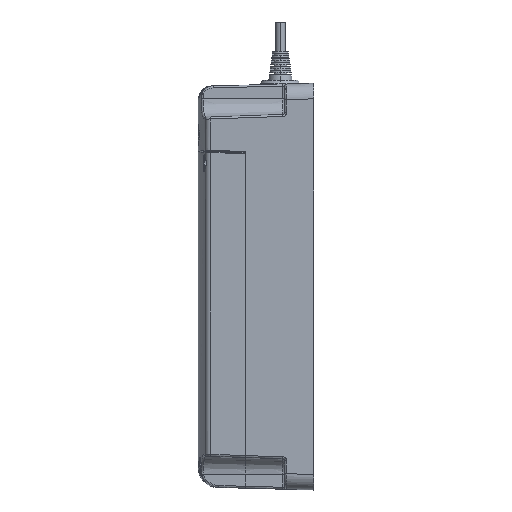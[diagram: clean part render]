
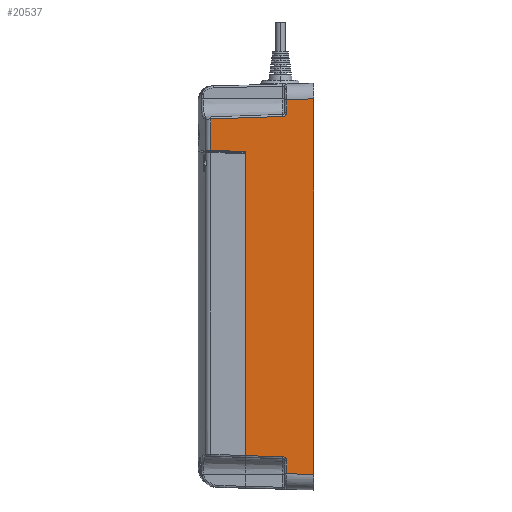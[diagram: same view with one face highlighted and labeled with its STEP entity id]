
A CAD part, left-side view. The second image highlights one B-rep face of the part: STEP entity #20537.
In plain terms, the highlighted planar face has unit normal (-1, 0.026, 0).
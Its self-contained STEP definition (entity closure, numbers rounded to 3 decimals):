
#170 = CARTESIAN_POINT ( 'NONE',  ( -58.005, -0.209, 96.508 ) ) ;
#172 = DIRECTION ( 'NONE',  ( 0.026, 0.999, -0.026 ) ) ;
#446 = CARTESIAN_POINT ( 'NONE',  ( -56.612, 53.016, 86.173 ) ) ;
#482 = DIRECTION ( 'NONE',  ( 0.026, 0.999, -0.035 ) ) ;
#486 = CARTESIAN_POINT ( 'NONE',  ( -57.633, 14.026, 89.466 ) ) ;
#493 = CARTESIAN_POINT ( 'NONE',  ( -57.608, 14.965, -87.502 ) ) ;
#498 = CARTESIAN_POINT ( 'NONE',  ( -57.633, 14.026, 88.326 ) ) ;
#499 = CARTESIAN_POINT ( 'NONE',  ( -57.612, 14.818, 87.507 ) ) ;
#500 = CARTESIAN_POINT ( 'NONE',  ( -57.582, 15.956, 87.467 ) ) ;
#504 = DIRECTION ( 'NONE',  ( -0.026, -0.999, -0.035 ) ) ;
#592 = CARTESIAN_POINT ( 'NONE',  ( -56.611, 53.051, 104.5 ) ) ;
#594 = DIRECTION ( 'NONE',  ( 0., 0., -1. ) ) ;
#686 = CARTESIAN_POINT ( 'NONE',  ( -57.633, 14.026, -96.11 ) ) ;
#702 = DIRECTION ( 'NONE',  ( 0., 0., -1. ) ) ;
#738 = CARTESIAN_POINT ( 'NONE',  ( -58., 0., 104.5 ) ) ;
#752 = DIRECTION ( 'NONE',  ( 0., 0., 1. ) ) ;
#1058 = CARTESIAN_POINT ( 'NONE',  ( -57.582, 15.956, -87.467 ) ) ;
#1089 = CARTESIAN_POINT ( 'NONE',  ( -57.612, 14.818, -87.507 ) ) ;
#1090 = CARTESIAN_POINT ( 'NONE',  ( -57.633, 14.026, -88.326 ) ) ;
#1091 = CARTESIAN_POINT ( 'NONE',  ( -57.633, 14.026, -89.466 ) ) ;
#5385 = AXIS2_PLACEMENT_3D ( 'NONE', #13556, #13562, #13563 ) ;
#5632 = DIRECTION ( 'NONE',  ( 0., 0., -1. ) ) ;
#5633 = CARTESIAN_POINT ( 'NONE',  ( -57.975, 0.939, 68.608 ) ) ;
#5634 = DIRECTION ( 'NONE',  ( -0.026, -0.999, -0.026 ) ) ;
#6015 = CARTESIAN_POINT ( 'NONE',  ( -57.862, 5.256, -96.365 ) ) ;
#6016 = DIRECTION ( 'NONE',  ( -0.026, -0.999, -0.026 ) ) ;
#7959 = CARTESIAN_POINT ( 'NONE',  ( -57.083, 35., -86.802 ) ) ;
#7968 = CARTESIAN_POINT ( 'NONE',  ( -57.633, 14.026, 96.135 ) ) ;
#7969 = CARTESIAN_POINT ( 'NONE',  ( -57.582, 15.956, -87.467 ) ) ;
#8000 = CARTESIAN_POINT ( 'NONE',  ( -56.611, 53.051, 86.172 ) ) ;
#8035 = CARTESIAN_POINT ( 'NONE',  ( -56.611, 53.051, 69.973 ) ) ;
#8150 = CARTESIAN_POINT ( 'NONE',  ( -58., 0., 96.503 ) ) ;
#8178 = CARTESIAN_POINT ( 'NONE',  ( -57.633, 14.026, -96.135 ) ) ;
#8193 = CARTESIAN_POINT ( 'NONE',  ( -57.633, 14.026, 89.466 ) ) ;
#8201 = CARTESIAN_POINT ( 'NONE',  ( -57.582, 15.956, 87.467 ) ) ;
#9912 = VERTEX_POINT ( 'NONE', #20754 ) ;
#9960 = VERTEX_POINT ( 'NONE', #20802 ) ;
#10013 = VERTEX_POINT ( 'NONE', #20855 ) ;
#10710 = EDGE_CURVE ( 'NONE', #10013, #22786, #23818, .T. ) ;
#10719 = EDGE_CURVE ( 'NONE', #22795, #23098, #23895, .T. ) ;
#10721 = EDGE_CURVE ( 'NONE', #22863, #10013, #23925, .T. ) ;
#10873 = EDGE_CURVE ( 'NONE', #23029, #9960, #23876, .T. ) ;
#11021 = EDGE_CURVE ( 'NONE', #23111, #22828, #18321, .T. ) ;
#11025 = EDGE_CURVE ( 'NONE', #22786, #22796, #18888, .T. ) ;
#11040 = EDGE_CURVE ( 'NONE', #22828, #22863, #18318, .T. ) ;
#11058 = EDGE_CURVE ( 'NONE', #9912, #23029, #18730, .T. ) ;
#11111 = EDGE_CURVE ( 'NONE', #22978, #22795, #23787, .T. ) ;
#11147 = EDGE_CURVE ( 'NONE', #23098, #23111, #17004, .T. ) ;
#11191 = EDGE_CURVE ( 'NONE', #9960, #22978, #23713, .T. ) ;
#11222 = EDGE_CURVE ( 'NONE', #22796, #9912, #16977, .T. ) ;
#13556 = CARTESIAN_POINT ( 'NONE',  ( -58., 0., 104.5 ) ) ;
#13557 = PLANE ( 'NONE',  #5385 ) ;
#13562 = DIRECTION ( 'NONE',  ( -1., 0.026, 0. ) ) ;
#13563 = DIRECTION ( 'NONE',  ( -0.026, -1., 0. ) ) ;
#16581 = EDGE_LOOP ( 'NONE', ( #23219, #17471, #23408, #17497, #17248, #17461, #17254, #23156, #23634, #23382, #23535, #23585 ) ) ;
#16977 =( BOUNDED_CURVE ( )  B_SPLINE_CURVE ( 3, ( #1058, #1089, #1090, #1091 ),
 .UNSPECIFIED., .F., .T. ) 
 B_SPLINE_CURVE_WITH_KNOTS ( ( 4, 4 ),
 ( 1.606, 3.142 ),
 .UNSPECIFIED. ) 
 CURVE ( )  GEOMETRIC_REPRESENTATION_ITEM ( )  RATIONAL_B_SPLINE_CURVE ( ( 1., 0.813, 0.813, 1. ) ) 
 REPRESENTATION_ITEM ( '' )  );
#17004 =( BOUNDED_CURVE ( )  B_SPLINE_CURVE ( 3, ( #486, #498, #499, #500 ),
 .UNSPECIFIED., .F., .F. ) 
 B_SPLINE_CURVE_WITH_KNOTS ( ( 4, 4 ),
 ( 0., 1.536 ),
 .UNSPECIFIED. ) 
 CURVE ( )  GEOMETRIC_REPRESENTATION_ITEM ( )  RATIONAL_B_SPLINE_CURVE ( ( 1., 0.813, 0.813, 1. ) ) 
 REPRESENTATION_ITEM ( '' )  );
#17248 = ORIENTED_EDGE ( 'NONE', *, *, #11021, .T. ) ;
#17254 = ORIENTED_EDGE ( 'NONE', *, *, #10721, .T. ) ;
#17461 = ORIENTED_EDGE ( 'NONE', *, *, #11040, .T. ) ;
#17471 = ORIENTED_EDGE ( 'NONE', *, *, #11111, .T. ) ;
#17497 = ORIENTED_EDGE ( 'NONE', *, *, #11147, .T. ) ;
#18318 = LINE ( 'NONE', #592, #19157 ) ;
#18321 = LINE ( 'NONE', #446, #19120 ) ;
#18634 = VECTOR ( 'NONE', #504, 1000. ) ;
#18715 = VECTOR ( 'NONE', #702, 1000. ) ;
#18730 = LINE ( 'NONE', #686, #18715 ) ;
#18888 = LINE ( 'NONE', #493, #18634 ) ;
#19120 = VECTOR ( 'NONE', #482, 1000. ) ;
#19157 = VECTOR ( 'NONE', #594, 1000. ) ;
#20537 = ADVANCED_FACE ( 'NONE', ( #24990 ), #13557, .T. ) ;
#20754 = CARTESIAN_POINT ( 'NONE',  ( -57.633, 14.026, -89.466 ) ) ;
#20802 = CARTESIAN_POINT ( 'NONE',  ( -58., 0., -96.503 ) ) ;
#20855 = CARTESIAN_POINT ( 'NONE',  ( -57.083, 35., 69.5 ) ) ;
#21783 = CARTESIAN_POINT ( 'NONE',  ( -57.083, 35., 104.5 ) ) ;
#21791 = DIRECTION ( 'NONE',  ( 0., 0., -1. ) ) ;
#21851 = CARTESIAN_POINT ( 'NONE',  ( -57.633, 14.026, 87.5 ) ) ;
#22786 = VERTEX_POINT ( 'NONE', #7959 ) ;
#22795 = VERTEX_POINT ( 'NONE', #7968 ) ;
#22796 = VERTEX_POINT ( 'NONE', #7969 ) ;
#22828 = VERTEX_POINT ( 'NONE', #8000 ) ;
#22863 = VERTEX_POINT ( 'NONE', #8035 ) ;
#22978 = VERTEX_POINT ( 'NONE', #8150 ) ;
#23029 = VERTEX_POINT ( 'NONE', #8178 ) ;
#23098 = VERTEX_POINT ( 'NONE', #8193 ) ;
#23111 = VERTEX_POINT ( 'NONE', #8201 ) ;
#23156 = ORIENTED_EDGE ( 'NONE', *, *, #10710, .T. ) ;
#23219 = ORIENTED_EDGE ( 'NONE', *, *, #11191, .T. ) ;
#23382 = ORIENTED_EDGE ( 'NONE', *, *, #11222, .T. ) ;
#23408 = ORIENTED_EDGE ( 'NONE', *, *, #10719, .T. ) ;
#23535 = ORIENTED_EDGE ( 'NONE', *, *, #11058, .T. ) ;
#23585 = ORIENTED_EDGE ( 'NONE', *, *, #10873, .T. ) ;
#23634 = ORIENTED_EDGE ( 'NONE', *, *, #11025, .T. ) ;
#23666 = VECTOR ( 'NONE', #752, 1000. ) ;
#23713 = LINE ( 'NONE', #738, #23666 ) ;
#23787 = LINE ( 'NONE', #170, #23806 ) ;
#23806 = VECTOR ( 'NONE', #172, 1000. ) ;
#23818 = LINE ( 'NONE', #21783, #23860 ) ;
#23841 = VECTOR ( 'NONE', #5632, 1000. ) ;
#23860 = VECTOR ( 'NONE', #21791, 1000. ) ;
#23876 = LINE ( 'NONE', #6015, #23978 ) ;
#23895 = LINE ( 'NONE', #21851, #23841 ) ;
#23913 = VECTOR ( 'NONE', #5634, 1000. ) ;
#23925 = LINE ( 'NONE', #5633, #23913 ) ;
#23978 = VECTOR ( 'NONE', #6016, 1000. ) ;
#24990 = FACE_OUTER_BOUND ( 'NONE', #16581, .T. ) ;
